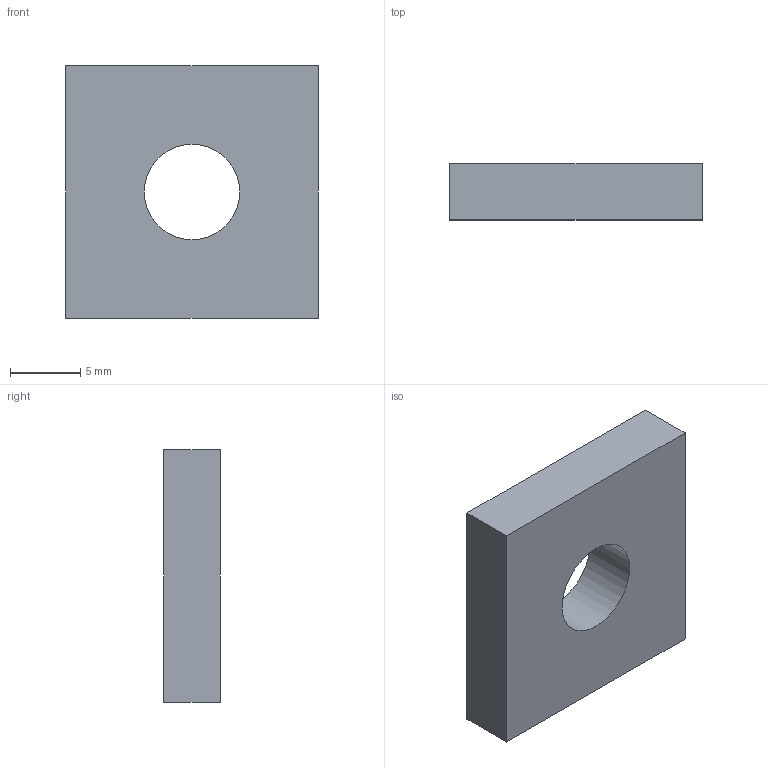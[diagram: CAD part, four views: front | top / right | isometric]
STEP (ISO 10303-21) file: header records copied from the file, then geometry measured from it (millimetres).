
FILE_DESCRIPTION(/* description */ ('Unknown'),/* implementation_level */ '2;1');
FILE_NAME(/* name */ 'BSN10M8',/* time_stamp */ '2018-11-12T17:15:04+00:00',/* author */ ('Unknown'),/* organization */ ('Unknown'),/* preprocessor_version */ 'ST-DEVELOPER v16.7',/* originating_system */ 'DEX',/* authorisation */ $);
FILE_SCHEMA (('AUTOMOTIVE_DESIGN {1 0 10303 214 3 1 1}'));
Length unit declared in the file: millimetre
Products named in the file (1): BSN10M8
Bounding box: 18 x 4 x 18 mm (x, y, z)
Volume: 1150.7 mm3; surface area: 948.8 mm2
Topology: 1 solids, 1 shells, 7 faces, 15 edges, 10 vertices
Faces by surface type: plane 6, cylinder 1
Full cylindrical faces by diameter (mm): 6.8 x1
Entity records: 220 total; most frequent: DIRECTION 32, CARTESIAN_POINT 32, ORIENTED_EDGE 28, EDGE_CURVE 14, LINE 12, VECTOR 12, VERTEX_POINT 10, EDGE_LOOP 10
